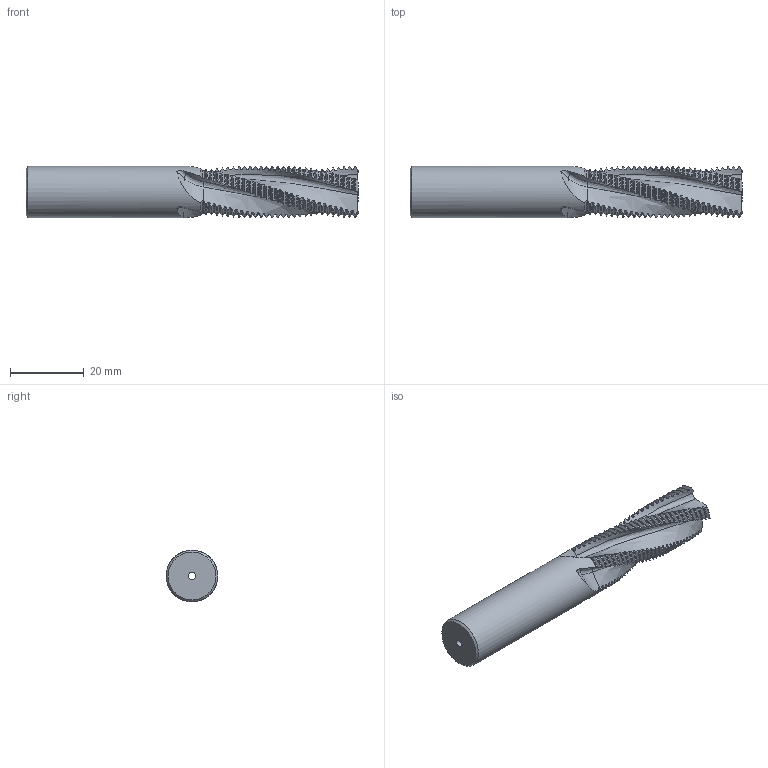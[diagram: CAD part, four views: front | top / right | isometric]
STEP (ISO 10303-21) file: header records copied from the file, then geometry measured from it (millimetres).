
FILE_DESCRIPTION(/* description */ (''),/* implementation_level */ '2;1');
FILE_NAME(/* name */ '00031454-STEP',/* time_stamp */ '2024-02-13T10:35:30+01:00',/* author */ (''),/* organization */ (''),/* preprocessor_version */ 'ST-DEVELOPER v16.5',/* originating_system */ 'HiCAD 2017 2201.0 Build 268',/* authorisation */ '');
FILE_SCHEMA (('AUTOMOTIVE_DESIGN { 1 0 10303 214 1 1 1 1 }'));
Products named in the file (2): Root; ROTATIONSTEIL_0
Assembly tree (1 placements, depth 2):
  Root
    ROTATIONSTEIL_0
Bounding box: 90 x 14 x 14 mm (x, y, z)
Volume: 10239.3 mm3; surface area: 5287.2 mm2
Topology: 1 solids, 1 shells, 717 faces, 2130 edges, 1415 vertices
Faces by surface type: cone 229, cylinder 226, torus 224, bspline 36, plane 2
Full cylindrical faces by diameter (mm): 2 x1, 14 x1
Entity records: 73174 total; most frequent: CARTESIAN_POINT 36487, PRESENTATION_STYLE_ASSIGNMENT 4249, COLOUR_RGB 4249, DRAUGHTING_PRE_DEFINED_CURVE_FONT 4248, CURVE_STYLE 4248, OVER_RIDING_STYLED_ITEM 4248, ORIENTED_EDGE 4248, DIRECTION 2734
